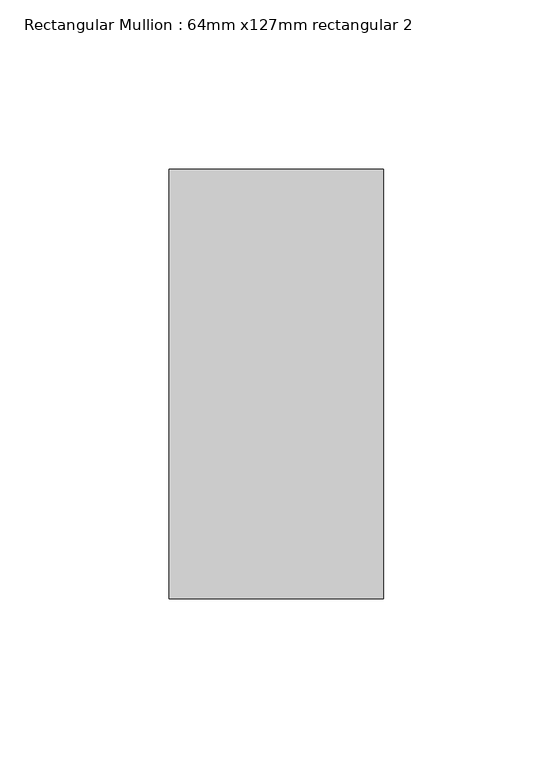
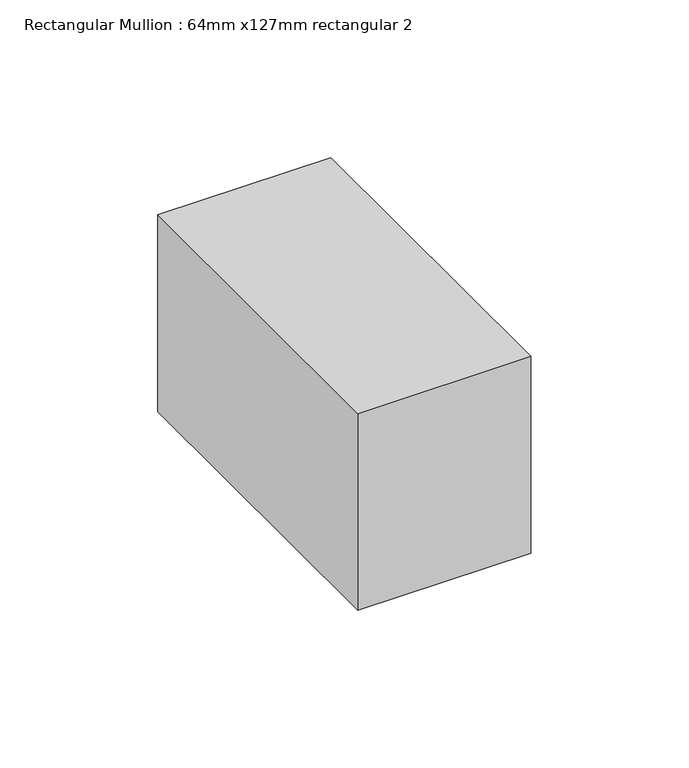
"""IFC4 building model written with IfcOpenShell, lengths in millimetres: member geometry, Rectangular Mullion : 64mm x127mm rectangular 2."""

import ifcopenshell
import ifcopenshell.guid

model = None  # the IFC model being written
_history = None  # IfcOwnerHistory: only IFC2X3 demands one
_inside = {}  # id of a spatial element -> (the spatial element, [elements in it])
_under = {}  # id of a project, library or spatial element -> (it, [spatial elements below it])
_declared = {}  # id of a project -> (the project, [libraries it declares])
_typed = {}  # id of a type object -> (the type object, [elements of that type])
_made_of = {}  # id of a material, layer set ... -> (it, [elements and type objects made of it])


def new_model(schema):
    """Start an empty IFC model of exactly this schema.

    Asked for "IFC4X3", IfcOpenShell would pick the latest addendum, in which some entities
    have other attributes; the version numbers below select the first issue.
    IFC2X3 requires an IfcOwnerHistory on every rooted entity: one is made here for all.
    """
    global model, _history
    if schema == "IFC4X3":
        model = ifcopenshell.file(schema_version=(4, 3, 0, 0))
    else:
        model = ifcopenshell.file(schema=schema)
    _inside.clear()
    _under.clear()
    _declared.clear()
    _typed.clear()
    _made_of.clear()
    _history = None
    if model.schema == "IFC2X3":
        org = make("IfcOrganization", Name="unknown")
        user = make(
            "IfcPersonAndOrganization",
            ThePerson=make("IfcPerson", FamilyName="unknown"),
            TheOrganization=org,
        )
        app = make(
            "IfcApplication",
            ApplicationDeveloper=org,
            Version="unknown",
            ApplicationFullName="unknown",
            ApplicationIdentifier="unknown",
        )
        _history = make(
            "IfcOwnerHistory",
            OwningUser=user,
            OwningApplication=app,
            ChangeAction="ADDED",
            CreationDate=0,
        )
    return model


def make(cls, **values):
    """One entity of the class cls with the attributes given. An attribute that is None is left unset."""
    return model.create_entity(
        cls, **{name: value for name, value in values.items() if value is not None}
    )


def rooted(cls, **values):
    """An entity with a GlobalId (a new one), such as an element, a storey or a relation."""
    return make(cls, GlobalId=ifcopenshell.guid.new(), OwnerHistory=_history, **values)


def si_unit(unit_type, name, prefix=None):
    """IfcSIUnit, for example si_unit("LENGTHUNIT", "METRE", prefix="MILLI")."""
    return make("IfcSIUnit", UnitType=unit_type, Prefix=prefix, Name=name)


def assignment(units):
    """IfcUnitAssignment: the units of a project."""
    return None if units is None else make("IfcUnitAssignment", Units=units)


def point(xyz):
    """IfcCartesianPoint."""
    return None if xyz is None else make("IfcCartesianPoint", Coordinates=xyz)


def direction(xyz):
    """IfcDirection."""
    return None if xyz is None else make("IfcDirection", DirectionRatios=xyz)


def frame(location, z_axis=None, x_axis=None):
    """IfcAxis2Placement3D, a coordinate frame: its origin and axes. An axis left out is left unset."""
    return make(
        "IfcAxis2Placement3D",
        Location=point(location),
        Axis=direction(z_axis),
        RefDirection=direction(x_axis),
    )


def origin():
    """The frame at (0, 0, 0) with its axes left unset."""
    return frame((0.0, 0.0, 0.0))


def place(relative_to, where):
    """IfcLocalPlacement: puts the frame where relative to a parent placement (None: the world)."""
    return make(
        "IfcLocalPlacement", PlacementRelTo=relative_to, RelativePlacement=where
    )


def context(
    kind, dimensions, precision=None, world=None, true_north=None, identifier=None
):
    """IfcGeometricRepresentationContext, for example the 3D "Model" context."""
    return make(
        "IfcGeometricRepresentationContext",
        ContextIdentifier=identifier,
        ContextType=kind,
        CoordinateSpaceDimension=dimensions,
        Precision=precision,
        WorldCoordinateSystem=world,
        TrueNorth=true_north,
    )


def project(units=None, contexts=None):
    """IfcProject with its units and contexts."""
    return rooted(
        "IfcProject",
        Name="project",
        RepresentationContexts=contexts,
        UnitsInContext=assignment(units),
    )


def spatial(cls, under=None, at=None, **own):
    """A site, building, storey or space (cls), placed at a placement, below another one or the project."""
    s = rooted(cls, ObjectPlacement=at, **own)
    if under is not None:
        _under.setdefault(under.id(), (under, []))[1].append(s)
    return s


def polyline(points):
    """IfcPolyline through the points."""
    return make("IfcPolyline", Points=[point(p) for p in points])


def outline(outer, holes=None, kind="AREA"):
    """IfcArbitraryClosedProfileDef: a profile drawn as a closed curve; with holes, ...WithVoids."""
    if holes is None:
        return make("IfcArbitraryClosedProfileDef", ProfileType=kind, OuterCurve=outer)
    return make(
        "IfcArbitraryProfileDefWithVoids",
        ProfileType=kind,
        OuterCurve=outer,
        InnerCurves=holes,
    )


def extrude(swept, where, along, depth):
    """IfcExtrudedAreaSolid: the profile swept, set in the frame where, extruded along a direction by depth."""
    return make(
        "IfcExtrudedAreaSolid",
        SweptArea=swept,
        Position=where,
        ExtrudedDirection=direction(along),
        Depth=depth,
    )


def shape(context_of_items, identifier, shape_type, items):
    """IfcShapeRepresentation: the items that make up one representation, for example the "Body"."""
    return make(
        "IfcShapeRepresentation",
        ContextOfItems=context_of_items,
        RepresentationIdentifier=identifier,
        RepresentationType=shape_type,
        Items=items,
    )


def source(mapping_origin, context_of_items, identifier, shape_type, items):
    """IfcRepresentationMap: a shape defined once, which mapped items show again and again."""
    return make(
        "IfcRepresentationMap",
        MappingOrigin=mapping_origin,
        MappedRepresentation=shape(context_of_items, identifier, shape_type, items),
    )


def transform(
    local_origin,
    x_axis=None,
    y_axis=None,
    z_axis=None,
    scale=None,
    scale2=None,
    scale3=None,
    uniform=True,
):
    """IfcCartesianTransformationOperator3D, or its non-uniform kind. x_axis, y_axis, z_axis: its Axis1, 2, 3."""
    if uniform:
        return make(
            "IfcCartesianTransformationOperator3D",
            Axis1=direction(x_axis),
            Axis2=direction(y_axis),
            LocalOrigin=point(local_origin),
            Scale=scale,
            Axis3=direction(z_axis),
        )
    return make(
        "IfcCartesianTransformationOperator3DnonUniform",
        Axis1=direction(x_axis),
        Axis2=direction(y_axis),
        LocalOrigin=point(local_origin),
        Scale=scale,
        Axis3=direction(z_axis),
        Scale2=scale2,
        Scale3=scale3,
    )


def mapped(mapping_source, mapping_target):
    """IfcMappedItem: shows the shape of a source again, moved by a transform."""
    return make(
        "IfcMappedItem", MappingSource=mapping_source, MappingTarget=mapping_target
    )


def made_of(thing, what):
    """Note that an element or type object is made of a material, layer set ...; save() writes the relation."""
    if what is not None:
        _made_of.setdefault(what.id(), (what, []))[1].append(thing)
    return thing


def element(
    cls,
    number,
    at=None,
    inside=None,
    cuts=None,
    type_object=None,
    material=None,
    context=None,
    identifier="Body",
    shape_type=None,
    held_by="IfcProductDefinitionShape",
    body=None,
    shapes=None,
    **own,
):
    """One element of the class cls, such as IfcWall. Its Tag is "e" and its number.

    at: its placement. inside: the storey or other place that contains it. cuts: it is an
    opening in that element (IfcRelVoidsElement). A single representation is given by context,
    identifier, shape_type and body (its items); several are given by shapes. held_by: the class
    of the entity that holds the representations. save() writes the other relations.
    """
    e = rooted(cls, Tag="e%d" % number, ObjectPlacement=at, **own)
    if body is not None:
        shapes = [shape(context, identifier, shape_type, body)]
    if shapes is not None:
        e.Representation = make(held_by, Representations=shapes)
    if inside is not None:
        _inside.setdefault(inside.id(), (inside, []))[1].append(e)
    if cuts is not None:
        rooted(
            "IfcRelVoidsElement", RelatingBuildingElement=cuts, RelatedOpeningElement=e
        )
    if type_object is not None:
        _typed.setdefault(type_object.id(), (type_object, []))[1].append(e)
    return made_of(e, material)


def aggregate(whole, parts):
    """IfcRelAggregates: a whole, such as a stair, and the parts it consists of."""
    return rooted("IfcRelAggregates", RelatingObject=whole, RelatedObjects=parts)


def save(model, path):
    """Write the relations noted so far, then the file.

    IfcRelAggregates (storeys below a building ...), IfcRelContainedInSpatialStructure (elements
    in a storey), IfcRelDefinesByType, IfcRelAssociatesMaterial and IfcRelDeclares: one each for
    every whole, place, type object, material and project.
    """
    for whole, parts in _under.values():
        aggregate(whole, parts)
    for where, things in _inside.values():
        rooted(
            "IfcRelContainedInSpatialStructure",
            RelatedElements=things,
            RelatingStructure=where,
        )
    for kind, things in _typed.values():
        rooted("IfcRelDefinesByType", RelatedObjects=things, RelatingType=kind)
    for what, things in _made_of.values():
        rooted("IfcRelAssociatesMaterial", RelatedObjects=things, RelatingMaterial=what)
    for by, libraries in _declared.values():
        rooted("IfcRelDeclares", RelatingContext=by, RelatedDefinitions=libraries)
    model.write(path)


def rectangular_mullion_64mm_x127mm_rectangular_2_00d00b53(model_context):
    return source(origin(), model_context, "Body", "SweptSolid", [
        extrude(outline(polyline([(31.75, 63.5), (31.75, -63.5), (-31.75, -63.5), (-31.75, 63.5), (31.75, 63.5)])), frame((0.0, 0.0, -76.2), z_axis=(0.0, 0.0, 1.0), x_axis=(1.0, 0.0, 0.0)), (0.0, 0.0, 1.0), 76.2),
    ])


if __name__ == "__main__":
    model = new_model("IFC4")
    model_context = context("Model", 3, world=origin())
    ifc_project = project(units=[si_unit("LENGTHUNIT", "METRE", prefix="MILLI")], contexts=[model_context])
    site = spatial("IfcSite", under=ifc_project)
    building = spatial("IfcBuilding", under=site)
    placement = place(None, origin())
    rectangular_mullion_64mm_x127mm_rectangular_2_shape = rectangular_mullion_64mm_x127mm_rectangular_2_00d00b53(model_context)
    element("IfcMember", 1, ObjectType="Rectangular Mullion : 64mm x127mm rectangular 2", at=placement, inside=building, context=model_context, shape_type="MappedRepresentation", body=[
        mapped(rectangular_mullion_64mm_x127mm_rectangular_2_shape, transform((0.0, 0.0, 0.0), x_axis=(1.0, 0.0, 0.0), y_axis=(0.0, 1.0, 0.0), z_axis=(0.0, 0.0, 1.0))),
    ])
    save(model, "model.ifc")
